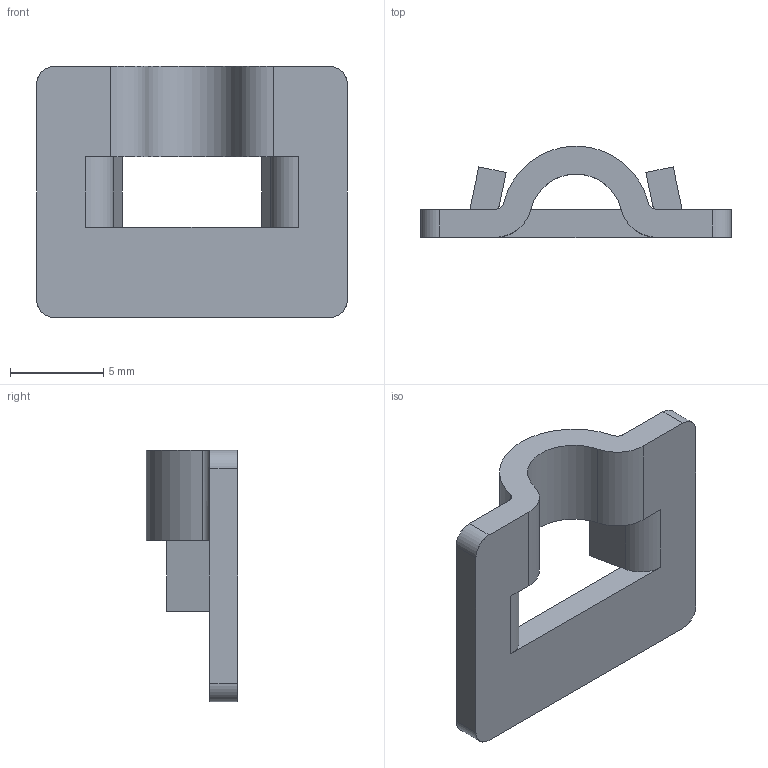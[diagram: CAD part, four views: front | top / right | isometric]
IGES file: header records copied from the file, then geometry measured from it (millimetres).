
Start section: SolidWorks IGES FILE using analytic representation for surfaces
Global section: file name: C:\Documents and Settings\lecoutey\Bureau\GR 62\54.060.10.IGS; native system: SolidWorks 2004 by SolidWorks Corporation; preprocessor: Version 5.3; author: lecoutey; date: 050330.160224; units: millimetre
Bounding box: 16.7 x 4.9 x 13.5 mm (x, y, z)
Surface area: 594 mm2 (no closed solid volume)
Topology: 0 solids, 0 shells, 30 faces, 356 edges, 356 vertices
Faces by surface type: bspline 18, revolution 12
